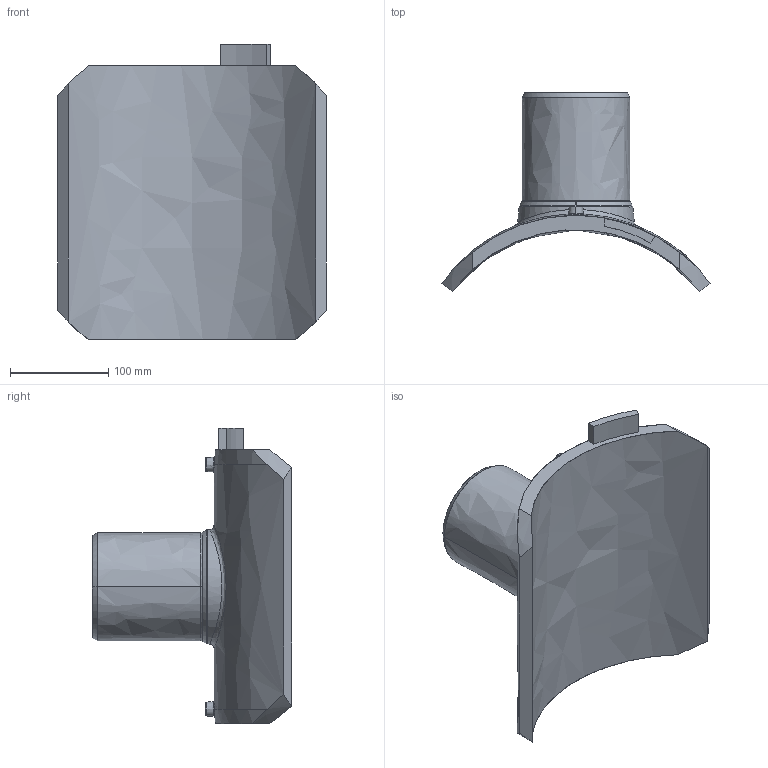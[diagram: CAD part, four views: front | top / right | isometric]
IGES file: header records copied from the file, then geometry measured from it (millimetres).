
Start section:  PTC IGES file: sa-uni_d315_110_01.igs
Global section: file name: sa-uni_d315_110_01.igs; native system: Pro/ENGINEER by Parametric Technology Corporation; preprocessor: 2011490; author: MikulicP; organization: Unknown; date: 20170203.105714; units: millimetre
Bounding box: 273.25 x 202.75 x 301 mm (x, y, z)
Surface area: 272872.3 mm2 (no closed solid volume)
Topology: 0 solids, 0 shells, 204 faces, 1008 edges, 1008 vertices
Faces by surface type: bspline 204
